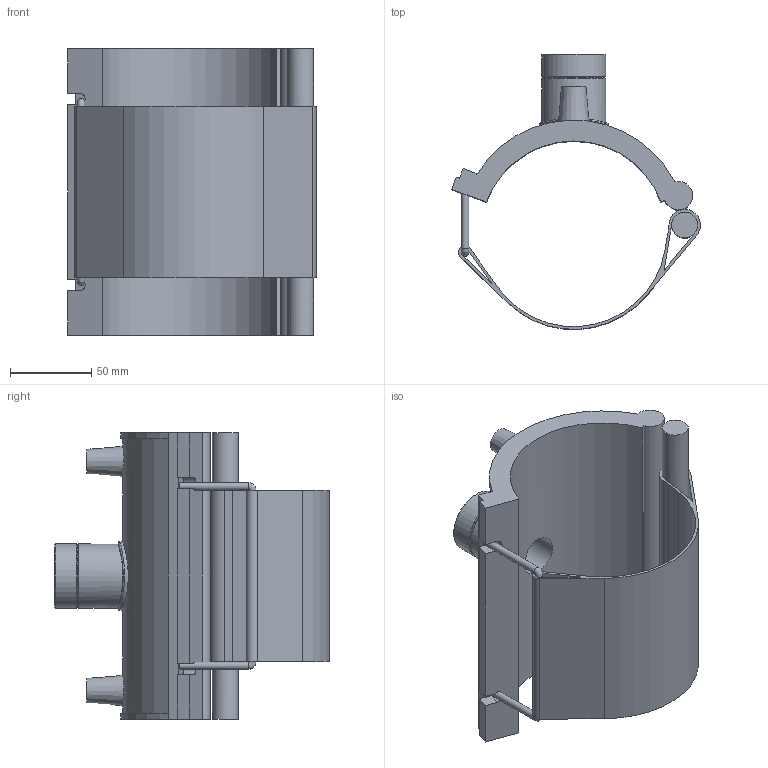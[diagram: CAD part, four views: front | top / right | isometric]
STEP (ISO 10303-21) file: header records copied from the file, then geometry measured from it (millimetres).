
FILE_DESCRIPTION(/* description */ ('PLASSON TRANSITION SADDLE 4''''IPS x 1"NPT'),/* implementation_level */ '2;1');
FILE_NAME(/* name */ 'C:\Dropbox\KIMPROJECTS-Inventor 2019\99-16-3568-Processing Inch\ASTM ElectroFusion 2021\5938B\5938B00304045.ipt.stp',/* time_stamp */ '2021-08-30T09:51:09+03:00',/* author */ ('KIM'),/* organization */ (''),/* preprocessor_version */ 'ST-DEVELOPER v17.2',/* originating_system */ 'Autodesk Inventor 2019',/* authorisation */ '');
FILE_SCHEMA (('AUTOMOTIVE_DESIGN { 1 0 10303 214 3 1 1 }'));
Length unit declared in the file: inch
Products named in the file (1): 5938B00304045
Bounding box: 152.91 x 169.05 x 176.02 mm (x, y, z)
Volume: 487492.6 mm3; surface area: 150331 mm2
Topology: 1 solids, 1 shells, 82 faces, 214 edges, 140 vertices
Faces by surface type: plane 44, cylinder 30, cone 5, torus 2, bspline 1
Full cylindrical faces by diameter (mm): 4 x2, 4.564 x2, 10 x2, 15.886 x1, 24.233 x1, 30.291 x1, 38.378 x1, 39.378 x2, 42.407 x1
Entity records: 2957 total; most frequent: CARTESIAN_POINT 824, DIRECTION 442, ORIENTED_EDGE 430, EDGE_CURVE 215, AXIS2_PLACEMENT_3D 160, VERTEX_POINT 140, LINE 122, VECTOR 122
